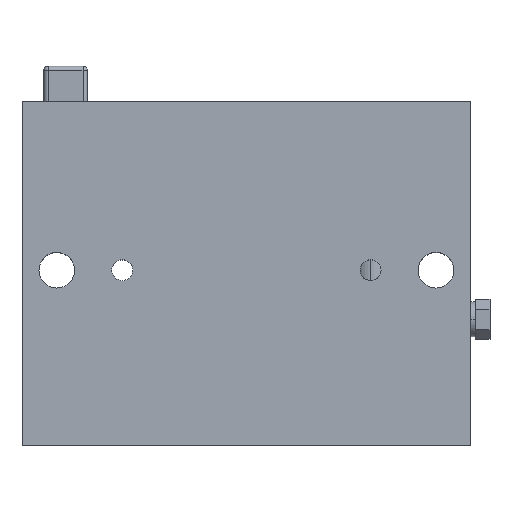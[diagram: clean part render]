
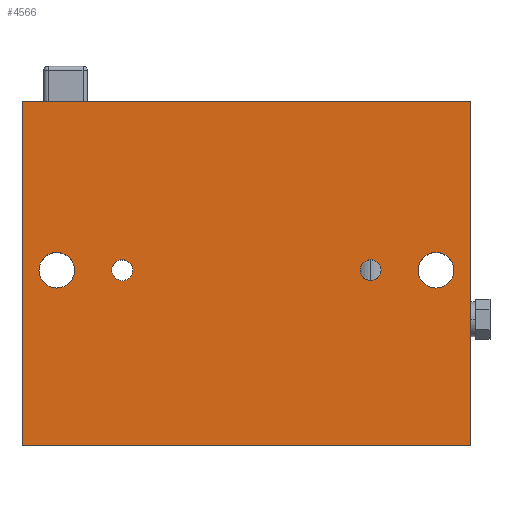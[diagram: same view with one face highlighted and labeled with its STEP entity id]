
A CAD part, top view. The second image highlights one B-rep face of the part: STEP entity #4566.
In plain terms, the highlighted planar face has unit normal (0, 0, 1).
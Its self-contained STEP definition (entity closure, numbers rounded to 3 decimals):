
#111 = CIRCLE ( 'NONE', #5983, 4.1 ) ;
#126 = ORIENTED_EDGE ( 'NONE', *, *, #6553, .F. ) ;
#191 = VECTOR ( 'NONE', #4349, 1000. ) ;
#231 = CARTESIAN_POINT ( 'NONE',  ( 23., 40.2, 22. ) ) ;
#240 = ORIENTED_EDGE ( 'NONE', *, *, #4210, .F. ) ;
#266 = EDGE_CURVE ( 'NONE', #5820, #8079, #4144, .T. ) ;
#332 = CIRCLE ( 'NONE', #6358, 4.1 ) ;
#419 = ORIENTED_EDGE ( 'NONE', *, *, #7014, .F. ) ;
#462 = CARTESIAN_POINT ( 'NONE',  ( 8., 40.2, 22. ) ) ;
#757 = DIRECTION ( 'NONE',  ( -1., 0., 0. ) ) ;
#780 = EDGE_LOOP ( 'NONE', ( #419, #5571 ) ) ;
#786 = VERTEX_POINT ( 'NONE', #5497 ) ;
#856 = DIRECTION ( 'NONE',  ( 1., 0., 0. ) ) ;
#866 = AXIS2_PLACEMENT_3D ( 'NONE', #7500, #3746, #8117 ) ;
#1076 = EDGE_CURVE ( 'NONE', #6014, #2853, #1268, .T. ) ;
#1093 = DIRECTION ( 'NONE',  ( 1., 0., 0. ) ) ;
#1107 = EDGE_LOOP ( 'NONE', ( #4529, #240 ) ) ;
#1243 = FACE_OUTER_BOUND ( 'NONE', #4022, .T. ) ;
#1268 = LINE ( 'NONE', #1590, #6085 ) ;
#1321 = DIRECTION ( 'NONE',  ( 0., 0., 1. ) ) ;
#1365 = EDGE_CURVE ( 'NONE', #4855, #2853, #4512, .T. ) ;
#1369 = CIRCLE ( 'NONE', #2995, 2.4 ) ;
#1411 = FACE_BOUND ( 'NONE', #1107, .T. ) ;
#1430 = AXIS2_PLACEMENT_3D ( 'NONE', #231, #4621, #856 ) ;
#1491 = CARTESIAN_POINT ( 'NONE',  ( 80., 40.2, 22. ) ) ;
#1590 = CARTESIAN_POINT ( 'NONE',  ( 0., 0., 22. ) ) ;
#1742 = CARTESIAN_POINT ( 'NONE',  ( 103., 79., 22. ) ) ;
#1753 = CARTESIAN_POINT ( 'NONE',  ( 82.4, 40.2, 22. ) ) ;
#1803 = AXIS2_PLACEMENT_3D ( 'NONE', #1491, #5887, #2118 ) ;
#1866 = ORIENTED_EDGE ( 'NONE', *, *, #1076, .T. ) ;
#1915 = VECTOR ( 'NONE', #6016, 1000. ) ;
#2075 = EDGE_CURVE ( 'NONE', #2553, #786, #111, .T. ) ;
#2118 = DIRECTION ( 'NONE',  ( 1., 0., 0. ) ) ;
#2455 = VECTOR ( 'NONE', #6772, 1000. ) ;
#2515 = VERTEX_POINT ( 'NONE', #2535 ) ;
#2529 = CARTESIAN_POINT ( 'NONE',  ( 95., 40.2, 22. ) ) ;
#2535 = CARTESIAN_POINT ( 'NONE',  ( 77.6, 40.2, 22. ) ) ;
#2544 = ORIENTED_EDGE ( 'NONE', *, *, #1365, .F. ) ;
#2553 = VERTEX_POINT ( 'NONE', #6955 ) ;
#2595 = ORIENTED_EDGE ( 'NONE', *, *, #6757, .F. ) ;
#2620 = EDGE_LOOP ( 'NONE', ( #126, #5348 ) ) ;
#2631 = DIRECTION ( 'NONE',  ( 0., 0., 1. ) ) ;
#2635 = ORIENTED_EDGE ( 'NONE', *, *, #7929, .F. ) ;
#2692 = EDGE_CURVE ( 'NONE', #2515, #4126, #1369, .T. ) ;
#2758 = CARTESIAN_POINT ( 'NONE',  ( 20.6, 40.2, 22. ) ) ;
#2853 = VERTEX_POINT ( 'NONE', #7131 ) ;
#2894 = FACE_BOUND ( 'NONE', #7536, .T. ) ;
#2995 = AXIS2_PLACEMENT_3D ( 'NONE', #5103, #1321, #5724 ) ;
#3147 = DIRECTION ( 'NONE',  ( 1., 0., 0. ) ) ;
#3208 = AXIS2_PLACEMENT_3D ( 'NONE', #2529, #6933, #3147 ) ;
#3238 = PLANE ( 'NONE',  #3698 ) ;
#3534 = CARTESIAN_POINT ( 'NONE',  ( 23., 40.2, 22. ) ) ;
#3575 = CIRCLE ( 'NONE', #1803, 2.4 ) ;
#3600 = LINE ( 'NONE', #7847, #1915 ) ;
#3698 = AXIS2_PLACEMENT_3D ( 'NONE', #7618, #4515, #757 ) ;
#3746 = DIRECTION ( 'NONE',  ( 0., 0., 1. ) ) ;
#3809 = AXIS2_PLACEMENT_3D ( 'NONE', #3534, #7900, #4186 ) ;
#3889 = CARTESIAN_POINT ( 'NONE',  ( 90.9, 40.2, 22. ) ) ;
#3893 = CARTESIAN_POINT ( 'NONE',  ( 25.4, 40.2, 22. ) ) ;
#3942 = VERTEX_POINT ( 'NONE', #6109 ) ;
#4022 = EDGE_LOOP ( 'NONE', ( #1866, #2544, #2635, #4454 ) ) ;
#4023 = EDGE_CURVE ( 'NONE', #3942, #6014, #3600, .T. ) ;
#4126 = VERTEX_POINT ( 'NONE', #1753 ) ;
#4144 = CIRCLE ( 'NONE', #1430, 2.4 ) ;
#4186 = DIRECTION ( 'NONE',  ( 1., 0., 0. ) ) ;
#4210 = EDGE_CURVE ( 'NONE', #786, #2553, #7124, .T. ) ;
#4214 = VERTEX_POINT ( 'NONE', #6874 ) ;
#4349 = DIRECTION ( 'NONE',  ( 1., 0., 0. ) ) ;
#4454 = ORIENTED_EDGE ( 'NONE', *, *, #4023, .T. ) ;
#4512 = LINE ( 'NONE', #1742, #2455 ) ;
#4515 = DIRECTION ( 'NONE',  ( 0., 0., -1. ) ) ;
#4529 = ORIENTED_EDGE ( 'NONE', *, *, #2075, .F. ) ;
#4563 = VERTEX_POINT ( 'NONE', #3889 ) ;
#4566 = ADVANCED_FACE ( 'NONE', ( #1411, #4769, #4572, #2894, #1243 ), #3238, .F. ) ;
#4572 = FACE_BOUND ( 'NONE', #780, .T. ) ;
#4621 = DIRECTION ( 'NONE',  ( 0., 0., 1. ) ) ;
#4769 = FACE_BOUND ( 'NONE', #2620, .T. ) ;
#4855 = VERTEX_POINT ( 'NONE', #8044 ) ;
#4865 = DIRECTION ( 'NONE',  ( 0., 0., 1. ) ) ;
#5038 = EDGE_CURVE ( 'NONE', #4214, #4563, #332, .T. ) ;
#5103 = CARTESIAN_POINT ( 'NONE',  ( 80., 40.2, 22. ) ) ;
#5310 = ORIENTED_EDGE ( 'NONE', *, *, #5038, .F. ) ;
#5348 = ORIENTED_EDGE ( 'NONE', *, *, #266, .F. ) ;
#5497 = CARTESIAN_POINT ( 'NONE',  ( 3.9, 40.2, 22. ) ) ;
#5533 = CARTESIAN_POINT ( 'NONE',  ( 0., 0., 22. ) ) ;
#5571 = ORIENTED_EDGE ( 'NONE', *, *, #2692, .F. ) ;
#5634 = LINE ( 'NONE', #6236, #191 ) ;
#5724 = DIRECTION ( 'NONE',  ( 1., 0., 0. ) ) ;
#5820 = VERTEX_POINT ( 'NONE', #2758 ) ;
#5887 = DIRECTION ( 'NONE',  ( 0., 0., 1. ) ) ;
#5983 = AXIS2_PLACEMENT_3D ( 'NONE', #462, #4865, #1093 ) ;
#6014 = VERTEX_POINT ( 'NONE', #5533 ) ;
#6016 = DIRECTION ( 'NONE',  ( 0., -1., 0. ) ) ;
#6085 = VECTOR ( 'NONE', #7221, 1000. ) ;
#6109 = CARTESIAN_POINT ( 'NONE',  ( 0., 79., 22. ) ) ;
#6236 = CARTESIAN_POINT ( 'NONE',  ( 0., 79., 22. ) ) ;
#6358 = AXIS2_PLACEMENT_3D ( 'NONE', #6396, #2631, #7035 ) ;
#6396 = CARTESIAN_POINT ( 'NONE',  ( 95., 40.2, 22. ) ) ;
#6553 = EDGE_CURVE ( 'NONE', #8079, #5820, #7479, .T. ) ;
#6757 = EDGE_CURVE ( 'NONE', #4563, #4214, #6829, .T. ) ;
#6772 = DIRECTION ( 'NONE',  ( 0., -1., 0. ) ) ;
#6829 = CIRCLE ( 'NONE', #3208, 4.1 ) ;
#6874 = CARTESIAN_POINT ( 'NONE',  ( 99.1, 40.2, 22. ) ) ;
#6933 = DIRECTION ( 'NONE',  ( 0., 0., 1. ) ) ;
#6955 = CARTESIAN_POINT ( 'NONE',  ( 12.1, 40.2, 22. ) ) ;
#7014 = EDGE_CURVE ( 'NONE', #4126, #2515, #3575, .T. ) ;
#7035 = DIRECTION ( 'NONE',  ( 1., 0., 0. ) ) ;
#7124 = CIRCLE ( 'NONE', #866, 4.1 ) ;
#7131 = CARTESIAN_POINT ( 'NONE',  ( 103., 0., 22. ) ) ;
#7221 = DIRECTION ( 'NONE',  ( 1., 0., 0. ) ) ;
#7479 = CIRCLE ( 'NONE', #3809, 2.4 ) ;
#7500 = CARTESIAN_POINT ( 'NONE',  ( 8., 40.2, 22. ) ) ;
#7536 = EDGE_LOOP ( 'NONE', ( #5310, #2595 ) ) ;
#7618 = CARTESIAN_POINT ( 'NONE',  ( 0., 79., 22. ) ) ;
#7847 = CARTESIAN_POINT ( 'NONE',  ( 0., 79., 22. ) ) ;
#7900 = DIRECTION ( 'NONE',  ( 0., 0., 1. ) ) ;
#7929 = EDGE_CURVE ( 'NONE', #3942, #4855, #5634, .T. ) ;
#8044 = CARTESIAN_POINT ( 'NONE',  ( 103., 79., 22. ) ) ;
#8079 = VERTEX_POINT ( 'NONE', #3893 ) ;
#8117 = DIRECTION ( 'NONE',  ( 1., 0., 0. ) ) ;
